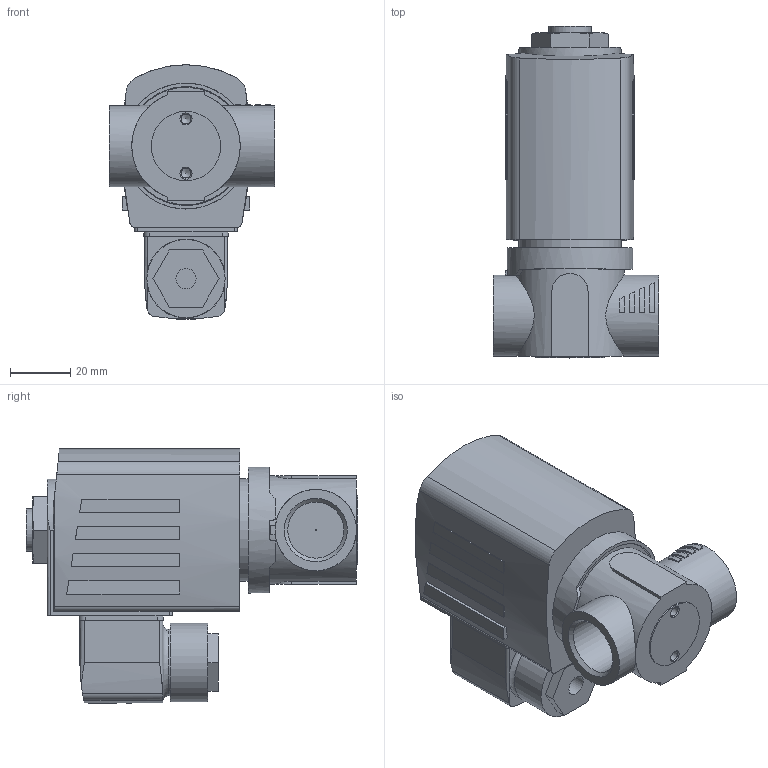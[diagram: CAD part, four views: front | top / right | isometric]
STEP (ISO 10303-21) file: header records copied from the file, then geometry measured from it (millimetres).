
FILE_DESCRIPTION(/* description */ ('STEP AP214'),/* implementation_level */ '2;1');
FILE_NAME(/* name */ '6027-A-6-EPDM___EPDM-MS-G_1_2-42-024___DC',/* time_stamp */ '2024-03-25T05:33:58+01:00',/* author */ ('License CC BY-ND 4.0'),/* organization */ ('CADENAS'),/* preprocessor_version */ 'ST-DEVELOPER v19.3',/* originating_system */ 'PARTsolutions',/* authorisation */ ' ');
FILE_SCHEMA (('AUTOMOTIVE_DESIGN {1 0 10303 214 3 1 1}'));
Length unit declared in the file: millimetre
Products named in the file (3): 6027-A-6-EPDM / EPDM-MS-G 1/2-42-024 / DC; AC10ex-42SG=kGSD_MB02Plan-Coil; V027-Gehaeuse G 1/2 1 1 MS G55 3 1
Assembly tree (2 placements, depth 2):
  6027-A-6-EPDM / EPDM-MS-G 1/2-42-024 / DC
    AC10ex-42SG=kGSD_MB02Plan-Coil
    V027-Gehaeuse G 1/2 1 1 MS G55 3 1
Bounding box: 55 x 110.2 x 84.5 mm (x, y, z)
Volume: 214049.9 mm3; surface area: 33617.3 mm2
Topology: 2 solids, 3 shells, 215 faces, 531 edges, 347 vertices
Faces by surface type: plane 141, cylinder 58, cone 13, sphere 2, torus 1
Full cylindrical faces by diameter (mm): 0.2 x1, 2.013 x1, 3.242 x2, 6 x1, 6.7 x1, 7 x1, 14 x1, 18.631 x2, 22 x1, 23 x1, 26 x1, 27 x2, 34 x1, 36 x1, 39 x1, 39.5 x1, 41.8 x1
Entity records: 7288 total; most frequent: CARTESIAN_POINT 1252, DIRECTION 1054, ORIENTED_EDGE 980, EDGE_CURVE 490, AXIS2_PLACEMENT_3D 391, VERTEX_POINT 335, LINE 272, VECTOR 272
